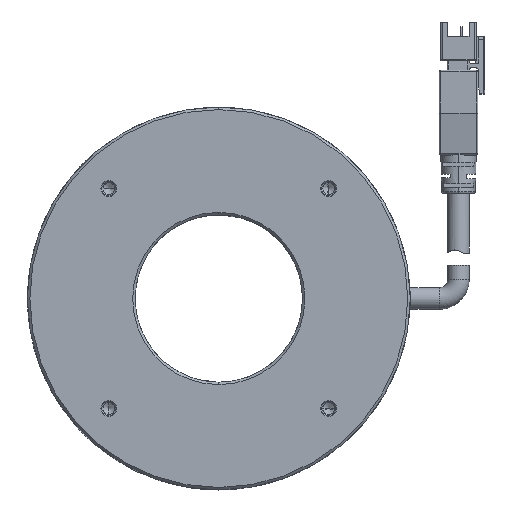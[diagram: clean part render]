
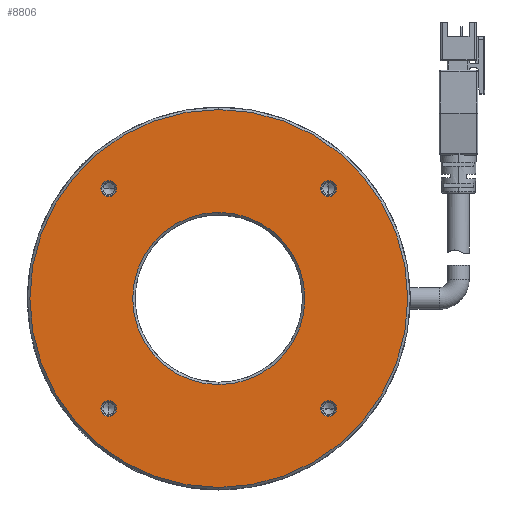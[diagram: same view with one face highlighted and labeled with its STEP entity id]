
A CAD part, top view. The second image highlights one B-rep face of the part: STEP entity #8806.
In plain terms, the highlighted planar face has unit normal (0, 0, 1).
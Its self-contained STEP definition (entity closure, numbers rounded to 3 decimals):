
#2018=CARTESIAN_POINT('',(22.981,22.981,1.5));
#2019=DIRECTION('',(0.,0.,-1.));
#2020=DIRECTION('',(0.,1.,0.));
#2021=AXIS2_PLACEMENT_3D('',#2018,#2019,#2020);
#2023=CARTESIAN_POINT('',(22.981,22.981,1.5));
#2024=DIRECTION('',(0.,0.,-1.));
#2025=DIRECTION('',(0.,-1.,0.));
#2026=AXIS2_PLACEMENT_3D('',#2023,#2024,#2025);
#2028=CARTESIAN_POINT('',(-22.981,-22.981,1.5));
#2029=DIRECTION('',(0.,0.,-1.));
#2030=DIRECTION('',(0.,-1.,0.));
#2031=AXIS2_PLACEMENT_3D('',#2028,#2029,#2030);
#2033=CARTESIAN_POINT('',(-22.981,-22.981,1.5));
#2034=DIRECTION('',(0.,0.,-1.));
#2035=DIRECTION('',(0.,1.,0.));
#2036=AXIS2_PLACEMENT_3D('',#2033,#2034,#2035);
#2038=CARTESIAN_POINT('',(0.,0.,1.5));
#2039=DIRECTION('',(0.,0.,-1.));
#2040=DIRECTION('',(0.,1.,0.));
#2041=AXIS2_PLACEMENT_3D('',#2038,#2039,#2040);
#2043=CARTESIAN_POINT('',(0.,0.,1.5));
#2044=DIRECTION('',(0.,0.,-1.));
#2045=DIRECTION('',(0.,-1.,0.));
#2046=AXIS2_PLACEMENT_3D('',#2043,#2044,#2045);
#2048=CARTESIAN_POINT('',(0.,0.,1.5));
#2049=DIRECTION('',(0.,0.,1.));
#2050=DIRECTION('',(0.,1.,0.));
#2051=AXIS2_PLACEMENT_3D('',#2048,#2049,#2050);
#2053=CARTESIAN_POINT('',(0.,0.,1.5));
#2054=DIRECTION('',(0.,0.,1.));
#2055=DIRECTION('',(0.,-1.,0.));
#2056=AXIS2_PLACEMENT_3D('',#2053,#2054,#2055);
#2062=CARTESIAN_POINT('',(-22.981,22.981,1.5));
#2063=DIRECTION('',(0.,0.,-1.));
#2064=DIRECTION('',(1.,0.,0.));
#2065=AXIS2_PLACEMENT_3D('',#2062,#2063,#2064);
#2076=CARTESIAN_POINT('',(-22.981,22.981,1.5));
#2077=DIRECTION('',(0.,0.,-1.));
#2078=DIRECTION('',(-1.,0.,0.));
#2079=AXIS2_PLACEMENT_3D('',#2076,#2077,#2078);
#2204=CARTESIAN_POINT('',(22.981,-22.981,1.5));
#2205=DIRECTION('',(0.,0.,-1.));
#2206=DIRECTION('',(1.,0.,0.));
#2207=AXIS2_PLACEMENT_3D('',#2204,#2205,#2206);
#2218=CARTESIAN_POINT('',(22.981,-22.981,1.5));
#2219=DIRECTION('',(0.,0.,-1.));
#2220=DIRECTION('',(-1.,0.,0.));
#2221=AXIS2_PLACEMENT_3D('',#2218,#2219,#2220);
#5255=CARTESIAN_POINT('',(0.,-39.5,1.5));
#5256=CARTESIAN_POINT('',(0.,39.5,1.5));
#5257=VERTEX_POINT('',#5255);
#5258=VERTEX_POINT('',#5256);
#5259=CARTESIAN_POINT('',(0.,-18.,1.5));
#5260=CARTESIAN_POINT('',(0.,18.,1.5));
#5261=VERTEX_POINT('',#5259);
#5262=VERTEX_POINT('',#5260);
#5263=CARTESIAN_POINT('',(-22.981,-21.331,1.5));
#5264=CARTESIAN_POINT('',(-22.981,-24.631,1.5));
#5265=VERTEX_POINT('',#5263);
#5266=VERTEX_POINT('',#5264);
#5267=CARTESIAN_POINT('',(22.981,21.331,1.5));
#5268=CARTESIAN_POINT('',(22.981,24.631,1.5));
#5269=VERTEX_POINT('',#5267);
#5270=VERTEX_POINT('',#5268);
#5313=CARTESIAN_POINT('',(24.631,-22.981,1.5));
#5315=VERTEX_POINT('',#5313);
#5318=CARTESIAN_POINT('',(21.331,-22.981,1.5));
#5320=VERTEX_POINT('',#5318);
#5347=CARTESIAN_POINT('',(-21.331,22.981,1.5));
#5349=VERTEX_POINT('',#5347);
#5352=CARTESIAN_POINT('',(-24.631,22.981,1.5));
#5354=VERTEX_POINT('',#5352);
#8767=CARTESIAN_POINT('',(0.,0.,1.5));
#8768=DIRECTION('',(0.,0.,-1.));
#8769=DIRECTION('',(0.,1.,0.));
#8770=AXIS2_PLACEMENT_3D('',#8767,#8768,#8769);
#8771=PLANE('',#8770);
#8773=ORIENTED_EDGE('',*,*,#8772,.F.);
#8775=ORIENTED_EDGE('',*,*,#8774,.F.);
#8776=EDGE_LOOP('',(#8773,#8775));
#8777=FACE_OUTER_BOUND('',#8776,.F.);
#8779=ORIENTED_EDGE('',*,*,#8778,.F.);
#8781=ORIENTED_EDGE('',*,*,#8780,.F.);
#8782=EDGE_LOOP('',(#8779,#8781));
#8783=FACE_BOUND('',#8782,.F.);
#8785=ORIENTED_EDGE('',*,*,#8784,.F.);
#8787=ORIENTED_EDGE('',*,*,#8786,.F.);
#8788=EDGE_LOOP('',(#8785,#8787));
#8789=FACE_BOUND('',#8788,.F.);
#8791=ORIENTED_EDGE('',*,*,#8790,.F.);
#8793=ORIENTED_EDGE('',*,*,#8792,.F.);
#8794=EDGE_LOOP('',(#8791,#8793));
#8795=FACE_BOUND('',#8794,.F.);
#8796=ORIENTED_EDGE('',*,*,#8760,.F.);
#8797=ORIENTED_EDGE('',*,*,#8746,.F.);
#8798=EDGE_LOOP('',(#8796,#8797));
#8799=FACE_BOUND('',#8798,.F.);
#8801=ORIENTED_EDGE('',*,*,#8800,.F.);
#8803=ORIENTED_EDGE('',*,*,#8802,.F.);
#8804=EDGE_LOOP('',(#8801,#8803));
#8805=FACE_BOUND('',#8804,.F.);
#8806=ADVANCED_FACE('',(#8777,#8783,#8789,#8795,#8799,#8805),#8771,.F.);
#2022=CIRCLE('',#2021,1.65);
#2027=CIRCLE('',#2026,1.65);
#2032=CIRCLE('',#2031,1.65);
#2037=CIRCLE('',#2036,1.65);
#2042=CIRCLE('',#2041,18.);
#2047=CIRCLE('',#2046,18.);
#2052=CIRCLE('',#2051,39.5);
#2057=CIRCLE('',#2056,39.5);
#2066=CIRCLE('',#2065,1.65);
#2080=CIRCLE('',#2079,1.65);
#2208=CIRCLE('',#2207,1.65);
#2222=CIRCLE('',#2221,1.65);
#8746=EDGE_CURVE('',#5261,#5262,#2047,.T.);
#8760=EDGE_CURVE('',#5262,#5261,#2042,.T.);
#8772=EDGE_CURVE('',#5258,#5257,#2052,.T.);
#8774=EDGE_CURVE('',#5257,#5258,#2057,.T.);
#8778=EDGE_CURVE('',#5270,#5269,#2022,.T.);
#8780=EDGE_CURVE('',#5269,#5270,#2027,.T.);
#8784=EDGE_CURVE('',#5266,#5265,#2032,.T.);
#8786=EDGE_CURVE('',#5265,#5266,#2037,.T.);
#8790=EDGE_CURVE('',#5315,#5320,#2208,.T.);
#8792=EDGE_CURVE('',#5320,#5315,#2222,.T.);
#8800=EDGE_CURVE('',#5349,#5354,#2066,.T.);
#8802=EDGE_CURVE('',#5354,#5349,#2080,.T.);
